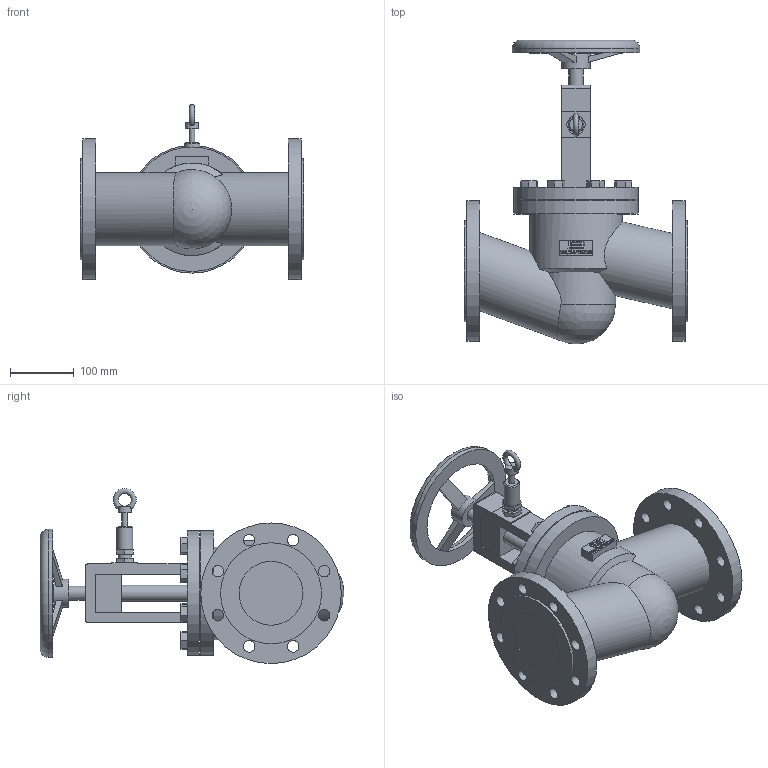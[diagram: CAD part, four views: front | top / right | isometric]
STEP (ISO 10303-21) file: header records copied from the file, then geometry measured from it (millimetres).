
FILE_DESCRIPTION(/* description */ (''),/* implementation_level */ '2;1');
FILE_NAME(/* name */ '100-247M-DN100-PN16.stp',/* time_stamp */ '2024-07-09T08:19:05+02:00',/* author */ ('roger.thijssen'),/* organization */ (''),/* preprocessor_version */ 'ST-DEVELOPER v20',/* originating_system */ 'Autodesk Inventor 2024',/* authorisation */ '');
FILE_SCHEMA (('AUTOMOTIVE_DESIGN { 1 0 10303 214 3 1 1 }'));
Length unit declared in the file: millimetre
Products named in the file (1): 100-247M-DN100-PN16
Bounding box: 350 x 475.42 x 274 mm (x, y, z)
Volume: 8247419.1 mm3; surface area: 540833.6 mm2
Topology: 1 solids, 1 shells, 386 faces, 1008 edges, 671 vertices
Faces by surface type: plane 258, bspline 69, cylinder 52, cone 4, torus 2, sphere 1
Full cylindrical faces by diameter (mm): 9 x1, 18 x16, 21 x1, 22 x1, 25 x2, 44 x1, 100 x2, 115 x2, 135 x1, 145 x1, 150 x1, 158 x2, 195 x2, 200 x1, 220 x2
Entity records: 13128 total; most frequent: CARTESIAN_POINT 3425, ORIENTED_EDGE 2014, DIRECTION 1616, EDGE_CURVE 1007, LINE 716, VECTOR 716, VERTEX_POINT 671, EDGE_LOOP 478
